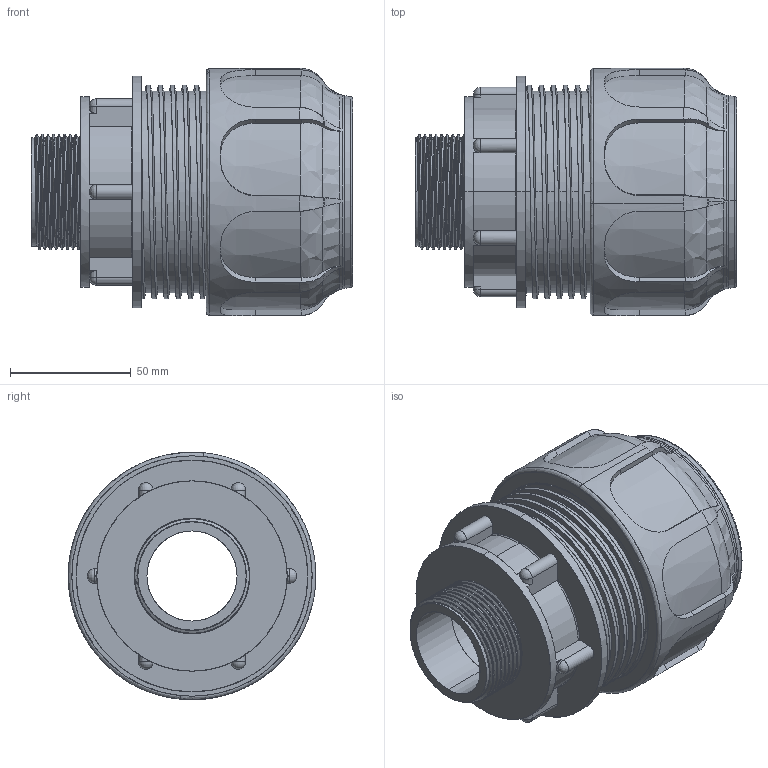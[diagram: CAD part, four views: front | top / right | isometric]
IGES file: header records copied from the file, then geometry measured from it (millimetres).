
Start section: SolidWorks IGES file using analytic representation for surfaces
Global section: file name: P:\DisegniUfficioTecnico\Articoli\ARTICOLI_3D\DISEGNI_STEP_IGS_SITO\02004\02004_IGS\02004.1150.IGS; native system: SolidWorks 2011; preprocessor: SolidWorks 2011; author: giacomo; date: 170522.162514; units: millimetre
Bounding box: 133.11 x 102.6 x 102.6 mm (x, y, z)
Surface area: 145349.2 mm2 (no closed solid volume)
Topology: 0 solids, 0 shells, 429 faces, 8442 edges, 8436 vertices
Faces by surface type: bspline 247, revolution 182
